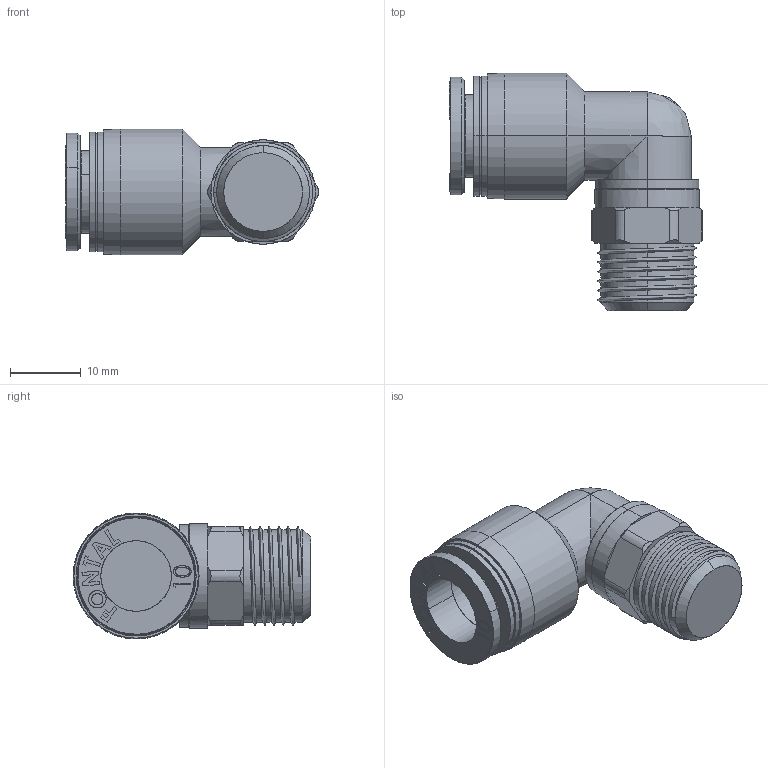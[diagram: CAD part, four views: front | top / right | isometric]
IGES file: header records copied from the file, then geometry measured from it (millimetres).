
Start section: SolidWorks IGES file using analytic representation for surfaces
Global section: file name: D:\Custom\3D繪製\ADDITIONAL\FPL\FPL10-02.IGS,1; native system: 5HSolidWorks 2014; preprocessor: SolidWorks 2014; author: Chieh_Lu; date: 160115.050301; units: millimetre
Bounding box: 35.86 x 33.7 x 17.85 mm (x, y, z)
Surface area: 4490 mm2 (no closed solid volume)
Topology: 0 solids, 0 shells, 181 faces, 2223 edges, 2222 vertices
Faces by surface type: bspline 114, revolution 67
